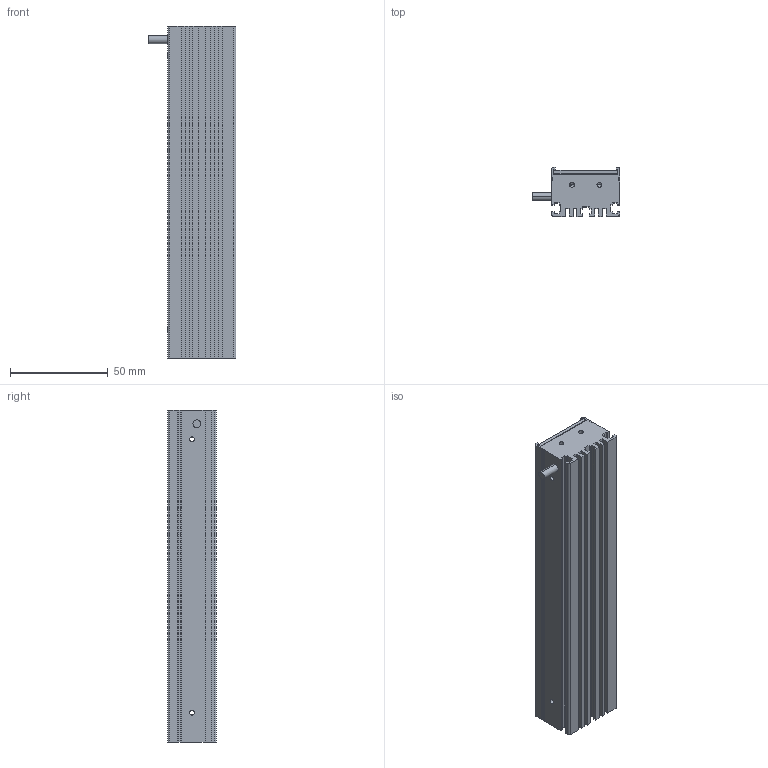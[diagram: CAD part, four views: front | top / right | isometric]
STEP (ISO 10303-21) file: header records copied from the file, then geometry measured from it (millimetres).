
FILE_DESCRIPTION (( 'STEP AP203' ), '1' );
FILE_NAME ('GTR17035-W.STEP', '2022-08-26T03:23:13', ( 'Windows User' ), ( 'P R C' ), 'SwSTEP 2.0', 'SolidWorks 2016', '' );
FILE_SCHEMA (( 'CONFIG_CONTROL_DESIGN' ));
Length unit declared in the file: millimetre
Products named in the file (1): GTR17035-W
Bounding box: 45 x 25 x 170 mm (x, y, z)
Volume: 66073.9 mm3; surface area: 54321.2 mm2
Topology: 2 solids, 2 shells, 846 faces, 2080 edges, 1380 vertices
Faces by surface type: plane 816, cylinder 22, cone 8
Entity records: 24479 total; most frequent: CARTESIAN_POINT 4299, ORIENTED_EDGE 4144, DIRECTION 3810, EDGE_CURVE 2072, LINE 2028, VECTOR 2028, VERTEX_POINT 1380, EDGE_LOOP 1004
